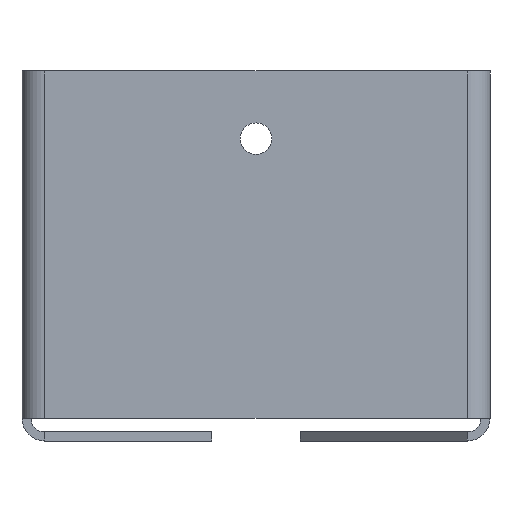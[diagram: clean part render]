
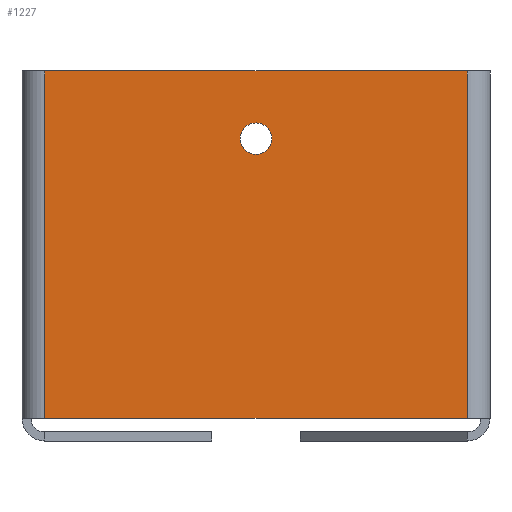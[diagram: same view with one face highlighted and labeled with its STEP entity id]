
A CAD part, front view. The second image highlights one B-rep face of the part: STEP entity #1227.
In plain terms, the highlighted planar face has unit normal (0, -1, 0).
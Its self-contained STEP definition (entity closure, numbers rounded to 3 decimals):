
#26 = AXIS2_PLACEMENT_3D ( 'NONE', #301, #2694, #3055 ) ;
#43 = VERTEX_POINT ( 'NONE', #776 ) ;
#109 = LINE ( 'NONE', #1200, #1838 ) ;
#140 = FACE_BOUND ( 'NONE', #2002, .T. ) ;
#244 = LINE ( 'NONE', #4248, #1786 ) ;
#301 = CARTESIAN_POINT ( 'NONE',  ( 250., 0., 25. ) ) ;
#337 = DIRECTION ( 'NONE',  ( 1., 0., 0. ) ) ;
#437 = CARTESIAN_POINT ( 'NONE',  ( 250., 0., 25. ) ) ;
#646 = PLANE ( 'NONE',  #1025 ) ;
#655 = ORIENTED_EDGE ( 'NONE', *, *, #3915, .F. ) ;
#776 = CARTESIAN_POINT ( 'NONE',  ( 203.142, 0., -37. ) ) ;
#904 = ORIENTED_EDGE ( 'NONE', *, *, #3127, .F. ) ;
#939 = VECTOR ( 'NONE', #337, 1000. ) ;
#1008 = DIRECTION ( 'NONE',  ( 0., -1., 0. ) ) ;
#1016 = AXIS2_PLACEMENT_3D ( 'NONE', #437, #3543, #3997 ) ;
#1023 = CARTESIAN_POINT ( 'NONE',  ( 296.858, 0., 40. ) ) ;
#1025 = AXIS2_PLACEMENT_3D ( 'NONE', #1028, #1008, #4990 ) ;
#1028 = CARTESIAN_POINT ( 'NONE',  ( 0., 0., 0. ) ) ;
#1200 = CARTESIAN_POINT ( 'NONE',  ( 296.858, 0., 0. ) ) ;
#1227 = ADVANCED_FACE ( 'NONE', ( #140, #1865 ), #646, .T. ) ;
#1406 = ORIENTED_EDGE ( 'NONE', *, *, #3428, .T. ) ;
#1502 = VECTOR ( 'NONE', #4063, 1000. ) ;
#1656 = DIRECTION ( 'NONE',  ( 0., 0., 1. ) ) ;
#1779 = VERTEX_POINT ( 'NONE', #3574 ) ;
#1786 = VECTOR ( 'NONE', #4988, 1000. ) ;
#1838 = VECTOR ( 'NONE', #1656, 1000. ) ;
#1865 = FACE_OUTER_BOUND ( 'NONE', #2831, .T. ) ;
#1992 = LINE ( 'NONE', #3073, #939 ) ;
#2002 = EDGE_LOOP ( 'NONE', ( #1406, #4132 ) ) ;
#2485 = CIRCLE ( 'NONE', #1016, 3.5 ) ;
#2509 = VERTEX_POINT ( 'NONE', #3162 ) ;
#2539 = VERTEX_POINT ( 'NONE', #3568 ) ;
#2641 = VERTEX_POINT ( 'NONE', #1023 ) ;
#2694 = DIRECTION ( 'NONE',  ( 0., 1., 0. ) ) ;
#2831 = EDGE_LOOP ( 'NONE', ( #2886, #3559, #904, #655 ) ) ;
#2834 = CARTESIAN_POINT ( 'NONE',  ( 0., 0., 40. ) ) ;
#2886 = ORIENTED_EDGE ( 'NONE', *, *, #3336, .T. ) ;
#2938 = EDGE_CURVE ( 'NONE', #2509, #4556, #2485, .T. ) ;
#2971 = LINE ( 'NONE', #2834, #1502 ) ;
#3055 = DIRECTION ( 'NONE',  ( 0., 0., 1. ) ) ;
#3073 = CARTESIAN_POINT ( 'NONE',  ( 0., 0., -37. ) ) ;
#3127 = EDGE_CURVE ( 'NONE', #2539, #2641, #2971, .T. ) ;
#3162 = CARTESIAN_POINT ( 'NONE',  ( 250., 0., 21.5 ) ) ;
#3336 = EDGE_CURVE ( 'NONE', #43, #1779, #1992, .T. ) ;
#3374 = CARTESIAN_POINT ( 'NONE',  ( 250., 0., 28.5 ) ) ;
#3428 = EDGE_CURVE ( 'NONE', #4556, #2509, #4721, .T. ) ;
#3543 = DIRECTION ( 'NONE',  ( 0., 1., 0. ) ) ;
#3559 = ORIENTED_EDGE ( 'NONE', *, *, #5034, .T. ) ;
#3568 = CARTESIAN_POINT ( 'NONE',  ( 203.142, 0., 40. ) ) ;
#3574 = CARTESIAN_POINT ( 'NONE',  ( 296.858, 0., -37. ) ) ;
#3915 = EDGE_CURVE ( 'NONE', #43, #2539, #244, .T. ) ;
#3997 = DIRECTION ( 'NONE',  ( 0., 0., 1. ) ) ;
#4063 = DIRECTION ( 'NONE',  ( 1., 0., 0. ) ) ;
#4132 = ORIENTED_EDGE ( 'NONE', *, *, #2938, .T. ) ;
#4248 = CARTESIAN_POINT ( 'NONE',  ( 203.142, 0., 0. ) ) ;
#4556 = VERTEX_POINT ( 'NONE', #3374 ) ;
#4721 = CIRCLE ( 'NONE', #26, 3.5 ) ;
#4988 = DIRECTION ( 'NONE',  ( 0., 0., 1. ) ) ;
#4990 = DIRECTION ( 'NONE',  ( 0., 0., -1. ) ) ;
#5034 = EDGE_CURVE ( 'NONE', #1779, #2641, #109, .T. ) ;
